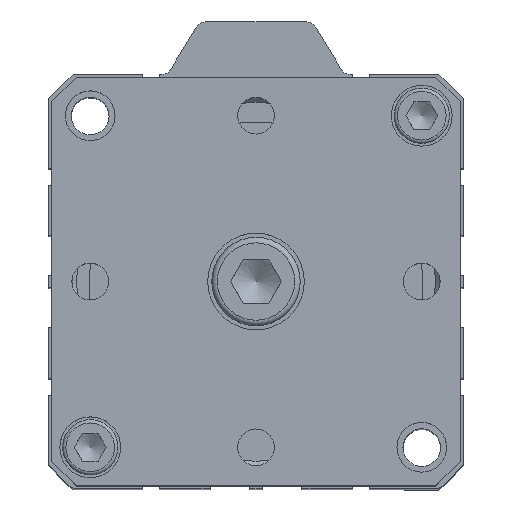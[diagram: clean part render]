
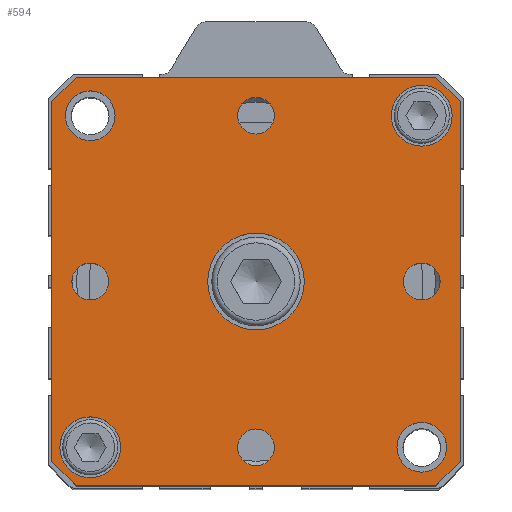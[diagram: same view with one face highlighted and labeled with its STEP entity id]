
A CAD part, top view. The second image highlights one B-rep face of the part: STEP entity #594.
In plain terms, the highlighted planar face has unit normal (0, 0, 1).
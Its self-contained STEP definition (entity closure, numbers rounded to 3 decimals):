
#196=CARTESIAN_POINT('',(32.859,35.684,130.5));
#197=VERTEX_POINT('',#196);
#198=CARTESIAN_POINT('',(37.359,31.184,130.5));
#199=VERTEX_POINT('',#198);
#200=CARTESIAN_POINT('',(32.859,35.684,130.5));
#201=DIRECTION('',(0.707,-0.707,0.0));
#202=VECTOR('',#201,6.364);
#203=LINE('',#200,#202);
#204=EDGE_CURVE('',#197,#199,#203,.T.);
#383=CARTESIAN_POINT('',(37.359,-33.816,130.5));
#384=VERTEX_POINT('',#383);
#385=CARTESIAN_POINT('',(37.359,31.184,130.5));
#386=DIRECTION('',(0.0,-1.0,0.0));
#387=VECTOR('',#386,65.);
#388=LINE('',#385,#387);
#389=EDGE_CURVE('',#199,#384,#388,.T.);
#406=CARTESIAN_POINT('',(32.859,-38.316,130.5));
#407=VERTEX_POINT('',#406);
#408=CARTESIAN_POINT('',(37.359,-33.816,130.5));
#409=DIRECTION('',(-0.707,-0.707,0.0));
#410=VECTOR('',#409,6.364);
#411=LINE('',#408,#410);
#412=EDGE_CURVE('',#384,#407,#411,.T.);
#430=CARTESIAN_POINT('',(-36.641,31.184,130.5));
#431=VERTEX_POINT('',#430);
#432=CARTESIAN_POINT('',(-32.141,35.684,130.5));
#433=VERTEX_POINT('',#432);
#434=CARTESIAN_POINT('',(-36.641,31.184,130.5));
#435=DIRECTION('',(0.707,0.707,0.0));
#436=VECTOR('',#435,6.364);
#437=LINE('',#434,#436);
#438=EDGE_CURVE('',#431,#433,#437,.T.);
#456=CARTESIAN_POINT('',(0.359,-1.316,130.5));
#457=DIRECTION('',(0.0,0.0,1.0));
#458=DIRECTION('',(1.0,0.0,0.0));
#459=AXIS2_PLACEMENT_3D('',#456,#457,#458);
#460=PLANE('',#459);
#461=ORIENTED_EDGE('',*,*,#204,.F.);
#462=CARTESIAN_POINT('',(-32.141,35.684,130.5));
#463=DIRECTION('',(1.0,0.0,0.0));
#464=VECTOR('',#463,65.0);
#465=LINE('',#462,#464);
#466=EDGE_CURVE('',#433,#197,#465,.T.);
#467=ORIENTED_EDGE('',*,*,#466,.F.);
#468=ORIENTED_EDGE('',*,*,#438,.F.);
#469=CARTESIAN_POINT('',(-36.641,-33.816,130.5));
#470=VERTEX_POINT('',#469);
#471=CARTESIAN_POINT('',(-36.641,-33.816,130.5));
#472=DIRECTION('',(0.0,1.0,0.0));
#473=VECTOR('',#472,65.0);
#474=LINE('',#471,#473);
#475=EDGE_CURVE('',#470,#431,#474,.T.);
#476=ORIENTED_EDGE('',*,*,#475,.F.);
#477=CARTESIAN_POINT('',(-32.141,-38.316,130.5));
#478=VERTEX_POINT('',#477);
#479=CARTESIAN_POINT('',(-32.141,-38.316,130.5));
#480=DIRECTION('',(-0.707,0.707,0.0));
#481=VECTOR('',#480,6.364);
#482=LINE('',#479,#481);
#483=EDGE_CURVE('',#478,#470,#482,.T.);
#484=ORIENTED_EDGE('',*,*,#483,.F.);
#485=CARTESIAN_POINT('',(32.859,-38.316,130.5));
#486=DIRECTION('',(-1.0,0.0,0.0));
#487=VECTOR('',#486,65.0);
#488=LINE('',#485,#487);
#489=EDGE_CURVE('',#407,#478,#488,.T.);
#490=ORIENTED_EDGE('',*,*,#489,.F.);
#491=ORIENTED_EDGE('',*,*,#412,.F.);
#492=ORIENTED_EDGE('',*,*,#389,.F.);
#493=EDGE_LOOP('',(#461,#467,#468,#476,#484,#490,#491,#492));
#494=FACE_OUTER_BOUND('',#493,.T.);
#495=CARTESIAN_POINT('',(9.109,-1.316,130.5));
#496=VERTEX_POINT('',#495);
#497=CARTESIAN_POINT('',(0.359,-1.316,130.5));
#498=DIRECTION('',(0.0,0.0,-1.0));
#499=DIRECTION('',(1.0,0.0,0.0));
#500=AXIS2_PLACEMENT_3D('',#497,#498,#499);
#501=CIRCLE('',#500,8.75);
#502=EDGE_CURVE('',#496,#496,#501,.T.);
#503=ORIENTED_EDGE('',*,*,#502,.T.);
#504=EDGE_LOOP('',(#503));
#505=FACE_BOUND('',#504,.T.);
#506=CARTESIAN_POINT('',(-24.141,-31.316,130.5));
#507=VERTEX_POINT('',#506);
#508=CARTESIAN_POINT('',(-29.641,-31.316,130.5));
#509=DIRECTION('',(0.0,0.0,-1.0));
#510=DIRECTION('',(1.0,0.0,0.0));
#511=AXIS2_PLACEMENT_3D('',#508,#509,#510);
#512=CIRCLE('',#511,5.5);
#513=EDGE_CURVE('',#507,#507,#512,.T.);
#514=ORIENTED_EDGE('',*,*,#513,.T.);
#515=EDGE_LOOP('',(#514));
#516=FACE_BOUND('',#515,.T.);
#517=CARTESIAN_POINT('',(35.859,28.684,130.5));
#518=VERTEX_POINT('',#517);
#519=CARTESIAN_POINT('',(30.359,28.684,130.5));
#520=DIRECTION('',(0.0,0.0,-1.0));
#521=DIRECTION('',(1.0,0.0,0.0));
#522=AXIS2_PLACEMENT_3D('',#519,#520,#521);
#523=CIRCLE('',#522,5.5);
#524=EDGE_CURVE('',#518,#518,#523,.T.);
#525=ORIENTED_EDGE('',*,*,#524,.T.);
#526=EDGE_LOOP('',(#525));
#527=FACE_BOUND('',#526,.T.);
#528=CARTESIAN_POINT('',(33.682,-1.316,130.5));
#529=VERTEX_POINT('',#528);
#530=CARTESIAN_POINT('',(30.359,-1.316,130.5));
#531=DIRECTION('',(0.0,0.0,-1.0));
#532=DIRECTION('',(1.0,0.0,0.0));
#533=AXIS2_PLACEMENT_3D('',#530,#531,#532);
#534=CIRCLE('',#533,3.324);
#535=EDGE_CURVE('',#529,#529,#534,.T.);
#536=ORIENTED_EDGE('',*,*,#535,.T.);
#537=EDGE_LOOP('',(#536));
#538=FACE_BOUND('',#537,.T.);
#539=CARTESIAN_POINT('',(3.682,-31.316,130.5));
#540=VERTEX_POINT('',#539);
#541=CARTESIAN_POINT('',(0.359,-31.316,130.5));
#542=DIRECTION('',(0.0,0.0,-1.0));
#543=DIRECTION('',(1.0,0.0,0.0));
#544=AXIS2_PLACEMENT_3D('',#541,#542,#543);
#545=CIRCLE('',#544,3.324);
#546=EDGE_CURVE('',#540,#540,#545,.T.);
#547=ORIENTED_EDGE('',*,*,#546,.T.);
#548=EDGE_LOOP('',(#547));
#549=FACE_BOUND('',#548,.T.);
#550=CARTESIAN_POINT('',(-26.318,-1.316,130.5));
#551=VERTEX_POINT('',#550);
#552=CARTESIAN_POINT('',(-29.641,-1.316,130.5));
#553=DIRECTION('',(0.0,0.0,-1.0));
#554=DIRECTION('',(1.0,0.0,0.0));
#555=AXIS2_PLACEMENT_3D('',#552,#553,#554);
#556=CIRCLE('',#555,3.324);
#557=EDGE_CURVE('',#551,#551,#556,.T.);
#558=ORIENTED_EDGE('',*,*,#557,.T.);
#559=EDGE_LOOP('',(#558));
#560=FACE_BOUND('',#559,.T.);
#561=CARTESIAN_POINT('',(3.682,28.684,130.5));
#562=VERTEX_POINT('',#561);
#563=CARTESIAN_POINT('',(0.359,28.684,130.5));
#564=DIRECTION('',(0.0,0.0,-1.0));
#565=DIRECTION('',(1.0,0.0,0.0));
#566=AXIS2_PLACEMENT_3D('',#563,#564,#565);
#567=CIRCLE('',#566,3.324);
#568=EDGE_CURVE('',#562,#562,#567,.T.);
#569=ORIENTED_EDGE('',*,*,#568,.T.);
#570=EDGE_LOOP('',(#569));
#571=FACE_BOUND('',#570,.T.);
#572=CARTESIAN_POINT('',(34.859,-31.316,130.5));
#573=VERTEX_POINT('',#572);
#574=CARTESIAN_POINT('',(30.359,-31.316,130.5));
#575=DIRECTION('',(0.0,0.0,-1.0));
#576=DIRECTION('',(-1.0,0.0,0.0));
#577=AXIS2_PLACEMENT_3D('',#574,#575,#576);
#578=CIRCLE('',#577,4.5);
#579=EDGE_CURVE('',#573,#573,#578,.T.);
#580=ORIENTED_EDGE('',*,*,#579,.T.);
#581=EDGE_LOOP('',(#580));
#582=FACE_BOUND('',#581,.T.);
#583=CARTESIAN_POINT('',(-25.141,28.684,130.5));
#584=VERTEX_POINT('',#583);
#585=CARTESIAN_POINT('',(-29.641,28.684,130.5));
#586=DIRECTION('',(0.0,0.0,-1.0));
#587=DIRECTION('',(-1.0,0.0,0.0));
#588=AXIS2_PLACEMENT_3D('',#585,#586,#587);
#589=CIRCLE('',#588,4.5);
#590=EDGE_CURVE('',#584,#584,#589,.T.);
#591=ORIENTED_EDGE('',*,*,#590,.T.);
#592=EDGE_LOOP('',(#591));
#593=FACE_BOUND('',#592,.T.);
#594=ADVANCED_FACE('',(#494,#505,#516,#527,#538,#549,#560,#571,#582,#593),#460,.T.);
